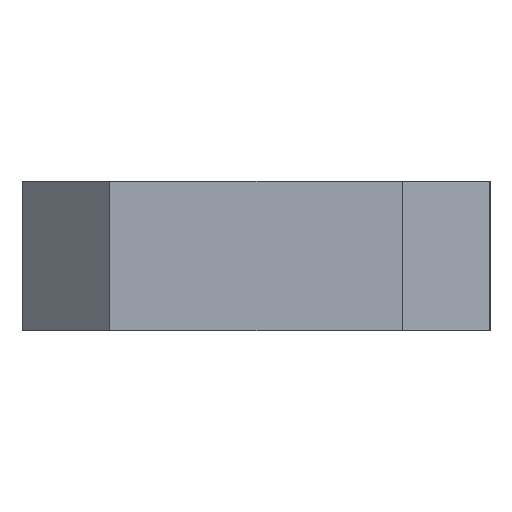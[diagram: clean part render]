
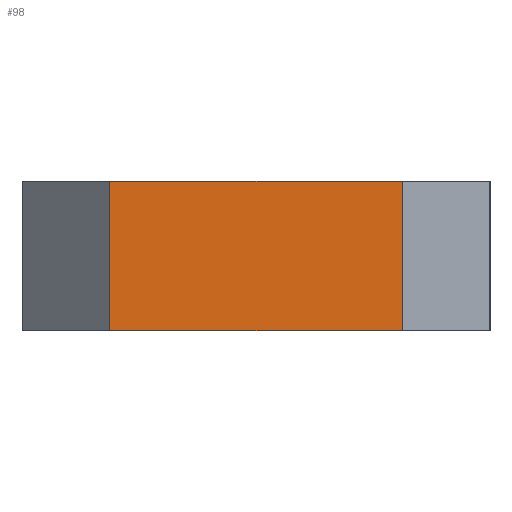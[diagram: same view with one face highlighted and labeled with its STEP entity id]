
A CAD part, left-side view. The second image highlights one B-rep face of the part: STEP entity #98.
In plain terms, the highlighted planar face has unit normal (-1, 0, 0).
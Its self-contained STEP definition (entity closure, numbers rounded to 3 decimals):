
#14 = LINE ( 'NONE', #341, #571 ) ;
#24 = VECTOR ( 'NONE', #512, 1000. ) ;
#25 = PLANE ( 'NONE',  #43 ) ;
#30 = CARTESIAN_POINT ( 'NONE',  ( 0., -7.843, 0. ) ) ;
#36 = VERTEX_POINT ( 'NONE', #65 ) ;
#43 = AXIS2_PLACEMENT_3D ( 'NONE', #398, #487, #527 ) ;
#46 = CARTESIAN_POINT ( 'NONE',  ( 0., -2.941, -5. ) ) ;
#50 = FACE_OUTER_BOUND ( 'NONE', #134, .T. ) ;
#59 = CARTESIAN_POINT ( 'NONE',  ( 0., -12.745, -5. ) ) ;
#64 = EDGE_CURVE ( 'NONE', #253, #269, #244, .T. ) ;
#65 = CARTESIAN_POINT ( 'NONE',  ( 0., -2.941, 0. ) ) ;
#98 = ADVANCED_FACE ( 'NONE', ( #50 ), #25, .T. ) ;
#102 = EDGE_CURVE ( 'NONE', #314, #36, #14, .T. ) ;
#116 = VECTOR ( 'NONE', #297, 1000. ) ;
#133 = EDGE_CURVE ( 'NONE', #269, #36, #444, .T. ) ;
#134 = EDGE_LOOP ( 'NONE', ( #313, #218, #197, #501 ) ) ;
#182 = CARTESIAN_POINT ( 'NONE',  ( 0., -7.843, -5. ) ) ;
#188 = CARTESIAN_POINT ( 'NONE',  ( 0., -12.745, 0. ) ) ;
#197 = ORIENTED_EDGE ( 'NONE', *, *, #351, .F. ) ;
#218 = ORIENTED_EDGE ( 'NONE', *, *, #102, .F. ) ;
#244 = LINE ( 'NONE', #251, #443 ) ;
#251 = CARTESIAN_POINT ( 'NONE',  ( 0., -12.745, -2.5 ) ) ;
#253 = VERTEX_POINT ( 'NONE', #59 ) ;
#269 = VERTEX_POINT ( 'NONE', #188 ) ;
#297 = DIRECTION ( 'NONE',  ( 0., 1., 0. ) ) ;
#313 = ORIENTED_EDGE ( 'NONE', *, *, #133, .T. ) ;
#314 = VERTEX_POINT ( 'NONE', #46 ) ;
#339 = DIRECTION ( 'NONE',  ( 0., 0., 1. ) ) ;
#341 = CARTESIAN_POINT ( 'NONE',  ( 0., -2.941, -2.5 ) ) ;
#351 = EDGE_CURVE ( 'NONE', #253, #314, #500, .T. ) ;
#398 = CARTESIAN_POINT ( 'NONE',  ( 0., -2.941, -5. ) ) ;
#443 = VECTOR ( 'NONE', #339, 1000. ) ;
#444 = LINE ( 'NONE', #30, #116 ) ;
#487 = DIRECTION ( 'NONE',  ( -1., 0., 0. ) ) ;
#500 = LINE ( 'NONE', #182, #24 ) ;
#501 = ORIENTED_EDGE ( 'NONE', *, *, #64, .T. ) ;
#512 = DIRECTION ( 'NONE',  ( 0., 1., 0. ) ) ;
#527 = DIRECTION ( 'NONE',  ( 0., -1., 0. ) ) ;
#528 = DIRECTION ( 'NONE',  ( 0., 0., 1. ) ) ;
#571 = VECTOR ( 'NONE', #528, 1000. ) ;
